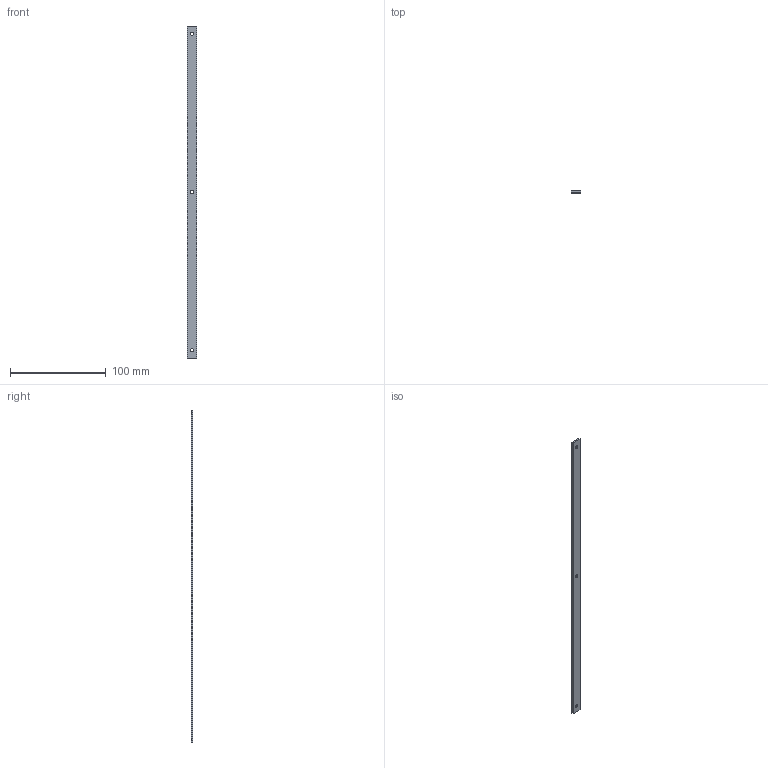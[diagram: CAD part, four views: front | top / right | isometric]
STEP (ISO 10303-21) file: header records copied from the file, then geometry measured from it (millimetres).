
FILE_DESCRIPTION(/* description */ ('Ledge 10mm for 19 Zoll Subrack 3U','CAx-IF Rec.Pracs.---Representation and Presentation of Product Manufacturing Information (PMI)---4.0---2014-10-13'),/* implementation_level */ '2;1');
FILE_NAME(/* name */ 'E:\CAMTEC_2020_Pack and Go\Subrack_3U\2051062002CA.stp',/* time_stamp */ '2020-09-21T18:05:42+02:00',/* author */ ('rryba'),/* organization */ (''),/* preprocessor_version */ 'ST-DEVELOPER v18.1',/* originating_system */ 'Autodesk Inventor 2021',/* authorisation */ '');
FILE_SCHEMA (('AP242_MANAGED_MODEL_BASED_3D_ENGINEERING_MIM_LF { 1 0 10303 442 1 1 4 }'));
Length unit declared in the file: millimetre
Products named in the file (1): 2051062002CA
Bounding box: 10 x 2 x 346 mm (x, y, z)
Volume: 6807 mm3; surface area: 8348 mm2
Topology: 1 solids, 1 shells, 15 faces, 42 edges, 35 vertices
Faces by surface type: cylinder 6, plane 6, cone 3
Full cylindrical faces by diameter (mm): 3.4 x3, 5.9 x3
Entity records: 532 total; most frequent: CARTESIAN_POINT 84, DIRECTION 83, ORIENTED_EDGE 66, EDGE_CURVE 33, AXIS2_PLACEMENT_3D 31, EDGE_LOOP 21, LINE 21, VECTOR 21
